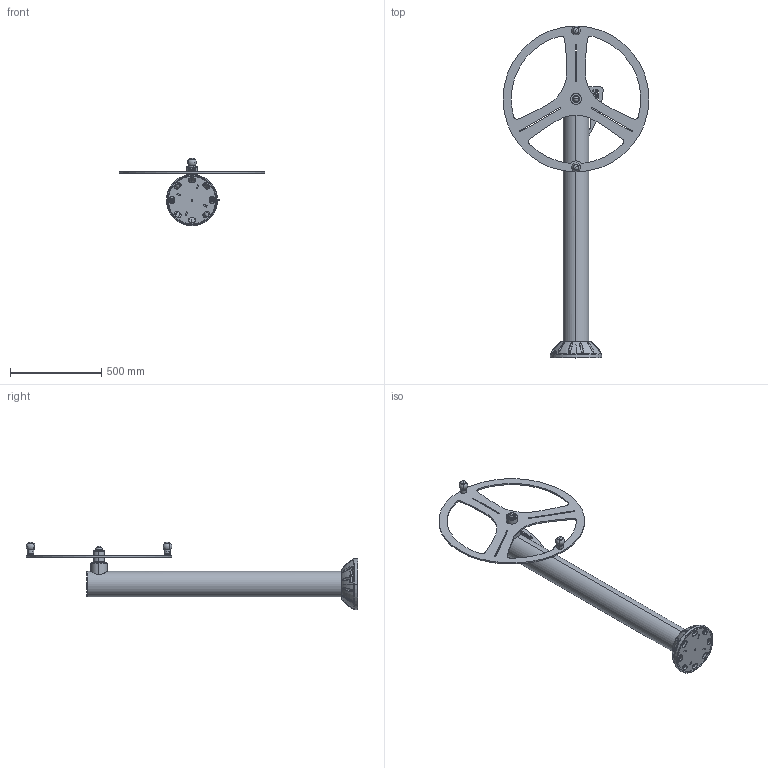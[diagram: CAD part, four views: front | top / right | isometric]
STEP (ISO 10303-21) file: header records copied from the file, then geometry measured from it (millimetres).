
FILE_DESCRIPTION (( 'STEP AP203' ), '1' );
FILE_NAME ('S0203 - BARREUR SIMPLE V1.0.STEP', '2020-03-27T13:48:36', ( '' ), ( '' ), 'SwSTEP 2.0', 'SolidWorks 2019', '' );
FILE_SCHEMA (( 'CONFIG_CONTROL_DESIGN' ));
Length unit declared in the file: millimetre
Products named in the file (30): SF1101 - Ecrou frein M10 A2; SB0130 - Joint torique 25X6 _d.28 f.7; SC0304 - Demi cache platine D140 V4.0; PU-TOLROND89-20 - Rondelle pour tube D.89 percée d.20 V1.0; SR0416 - Rondelle plate petite M10 A2 ext 22mm; S0203 - BARREUR SIMPLE V1.0; TOLROUE-S0203.A - Roue barreur V1.1; SCH1806.A - Chapeau D135 V1.2; SRR0816 - Roulement  6204 47-20-14; SBA1601 - Bague 6204 L60 V1.0; SC0306C - Petit capuchon en nylon 36 mm; PU-TOLROND89-25 - Rondelle pour tube D.89 percée d.25 V1.0; SR0427 - Rondelle plastique bouchon bague D60 d.20; ROUE-S0203 - ROUE BARREUR V1.1; PALIER-S0203 - PALIER BARREUR V1.0; SP0608 - Poignée plastique tournante ELESA 247011; PU-TROCB1470BAS Colonne base D.139,7x3 Ht1470 Barreur Simple V1.0; SC0304 - CACHE PLATINE ASS V4.0; PU-TOLPLAT - Platine base V1.0; SC0306B - Base pour capuchon en nylon 36mm; BATI-S0203 - BATI BARREUR V1.0; PLATINE BASE ASS V2.0; SB0129 - Joint torique 18 X 6 _d.28 f.7; Ass Joint torique Volant - Barreur V1.0; SA1431 - Axe acier D.25 L272 V1.0; PU-TOLGOPL - Gousset platine V2.0; TOLLOCOL - Tole logo colonne V1.0; SF1113 - Ecrou M10 A2_default; SB0112 - Vis Torx teton central M8x20_M8x20; TROND88.9x100 - Tube D.88,9x3 L=100 V1.0
Assembly tree (40 placements, depth 4):
  S0203 - BARREUR SIMPLE V1.0
    BATI-S0203 - BATI BARREUR V1.0
      PLATINE BASE ASS V2.0
        PU-TOLPLAT - Platine base V1.0
        PU-TOLGOPL - Gousset platine V2.0  x4
      PU-TROCB1470BAS Colonne base D.139,7x3 Ht1470 Barreur Simple V1.0
      PALIER-S0203 - PALIER BARREUR V1.0
        TROND88.9x100 - Tube D.88,9x3 L=100 V1.0
        SA1431 - Axe acier D.25 L272 V1.0
        PU-TOLROND89-20 - Rondelle pour tube D.89 percée d.20 V1.0
        PU-TOLROND89-25 - Rondelle pour tube D.89 percée d.25 V1.0
      SCH1806.A - Chapeau D135 V1.2
      TOLLOCOL - Tole logo colonne V1.0
    ROUE-S0203 - ROUE BARREUR V1.1
      TOLROUE-S0203.A - Roue barreur V1.1
      SBA1601 - Bague 6204 L60 V1.0
    SC0306C - Petit capuchon en nylon 36 mm
    SC0306B - Base pour capuchon en nylon 36mm
    SR0427 - Rondelle plastique bouchon bague D60 d.20  x2
    SRR0816 - Roulement  6204 47-20-14  x2
    SF1101 - Ecrou frein M10 A2
    SR0416 - Rondelle plate petite M10 A2 ext 22mm
    SC0304 - CACHE PLATINE ASS V4.0
      SC0304 - Demi cache platine D140 V4.0
      SB0112 - Vis Torx teton central M8x20_M8x20  x2
    SP0608 - Poignée plastique tournante ELESA 247011  x2
    SF1113 - Ecrou M10 A2_default  x2
    Ass Joint torique Volant - Barreur V1.0
      SB0130 - Joint torique 25X6 _d.28 f.7  x2
      SB0129 - Joint torique 18 X 6 _d.28 f.7  x3
Bounding box: 800 x 1820 x 370.67 mm (x, y, z)
Volume: 5532488.7 mm3; surface area: 2354711.6 mm2
Topology: 43 solids, 43 shells, 1348 faces, 3350 edges, 2129 vertices
Faces by surface type: cylinder 352, bspline 332, plane 318, cone 178, torus 124, sphere 44
Entity records: 124592 total; most frequent: CARTESIAN_POINT 98132, ORIENTED_EDGE 5158, DIRECTION 4246, EDGE_CURVE 2579, AXIS2_PLACEMENT_3D 1736, VERTEX_POINT 1644, EDGE_LOOP 1211, FACE_OUTER_BOUND 1043
